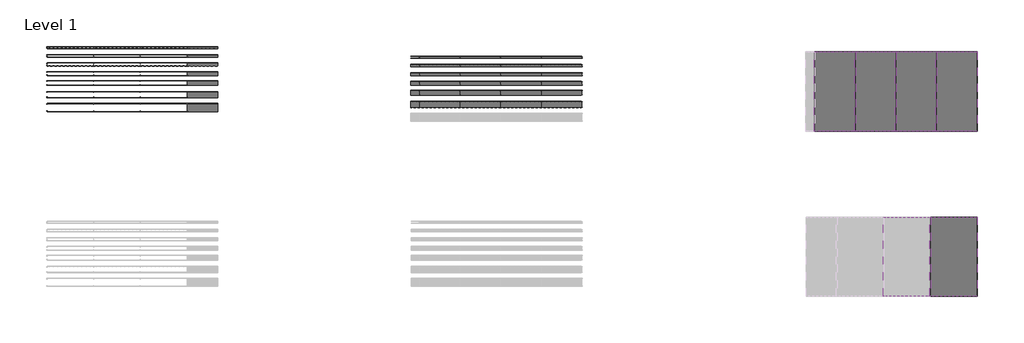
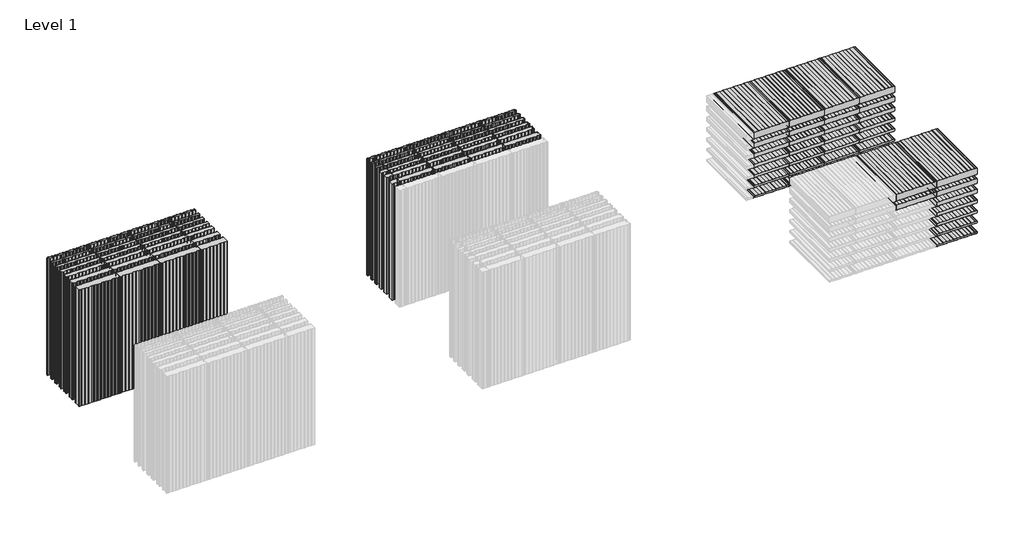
# One storey, part 4 of 4: 95 plates.
"""IFC4 building model written with IfcOpenShell, lengths in millimetres."""

from ifc_helpers import new_model, si_unit, origin, place, context, project, spatial, transform, mapped, element, save
from components import pm1_curtain_panel_standard_profile_64459d4c, pm1_curtain_panel_standard_profile_1bd4c047, pm1_curtain_panel_standard_profile_331eded3, pm1_curtain_panel_standard_profile_70a947a0, pm1_curtain_panel_standard_profile_f790478e, pm1_curtain_panel_standard_profile_9475321e, pm1_curtain_panel_standard_profile_5101608a, pm1_curtain_panel_standard_profile_95d5dc12, pm1_curtain_panel_standard_profile_808d0dd5, pm1_curtain_panel_standard_profile_bc3a73cf, pm1_curtain_panel_standard_profile_645c54cf, pm1_curtain_panel_standard_profile_fd7bc9c6, pm1_curtain_panel_standard_profile_a12e6484, pm1_curtain_panel_standard_profile_edf24548, pm1_curtain_panel_standard_profile_c46ebac7, pm1_curtain_panel_standard_profile_a53d14e9, pm1_curtain_panel_standard_profile_b681ec22, pm1_curtain_panel_standard_profile_9f690ffb, pm1_curtain_panel_standard_profile_ebc39398, pm1_curtain_panel_standard_profile_293336a9, pm1_curtain_panel_standard_profile_7c5191db, pm1_curtain_panel_micro_ribbed_profile_c0fbc9e0, pm1_curtain_panel_micro_ribbed_profile_24b0a13b, pm1_curtain_panel_micro_ribbed_profile_1f1996e2, pm1_curtain_panel_micro_ribbed_profile_37213962, pm1_curtain_panel_micro_ribbed_profile_82cb0394, pm1_curtain_panel_micro_ribbed_profile_46b46948, pm1_curtain_panel_micro_ribbed_profile_215b7ad8, pm1_curtain_panel_micro_ribbed_profile_cca0c929, pm1_curtain_panel_micro_ribbed_profile_490ffd24, pm1_curtain_panel_micro_ribbed_profile_86621088, pm1_curtain_panel_micro_ribbed_profile_9c3616a6, pm1_curtain_panel_micro_ribbed_profile_b6f5b8fb, pm1_curtain_panel_micro_ribbed_profile_3ec6e447, pm1_curtain_panel_micro_ribbed_profile_b6d19df9, pmh_curtain_panel_standard_d920e055, pmh_curtain_panel_standard_b3cdcdb4, pmh_curtain_panel_standard_897669c1, pmh_curtain_panel_standard_a9f73665, pmh_curtain_panel_standard_05a95652, pmh_curtain_panel_standard_f2a34cce, pmh_curtain_panel_standard_6cec185c, pmh_curtain_panel_standard_0c309260, pmh_curtain_panel_standard_df710713, pmh_curtain_panel_standard_caacb22a, pmh_curtain_panel_standard_ede8462a, pmh_curtain_panel_standard_cda4ae5a, pmh_curtain_panel_standard_ffdd8b7e, pmh_curtain_panel_standard_73a2f7ae, pmh_curtain_panel_standard_e8205904, pmh_curtain_panel_standard_b975286f, pmh_curtain_panel_standard_5e7b8410, pmh_curtain_panel_standard_5d81f6bc, pmh_curtain_panel_standard_d92086c8

model = new_model("IFC4")

# Units and contexts
model_context = context("Model", 3, world=origin())
ifc_project = project(units=[si_unit("LENGTHUNIT", "METRE", prefix="MILLI")], contexts=[model_context])

# Site, building, storey
site = spatial("IfcSite", under=ifc_project)
building = spatial("IfcBuilding", under=site)
storey = spatial("IfcBuildingStorey", under=building, Name="Level 1", Elevation=0.0)

# Plates
placement = place(None, origin())
pm1_curtain_panel_standard_profile_shape = pm1_curtain_panel_standard_profile_64459d4c(model_context)
pm1_curtain_panel_standard_profile_2_shape = pm1_curtain_panel_standard_profile_1bd4c047(model_context)
element("IfcPlate", 1, ObjectType="PM1_Curtain-Panel_ Standard-profile : ACH_PM1_Acoustic-Sectioning-Panel_60M", at=placement, inside=storey, context=model_context, shape_type="MappedRepresentation", body=[
    mapped(pm1_curtain_panel_standard_profile_shape, transform((-10729.4132588, 1220.6868121, 0.0), x_axis=(1.0, 0.0, 0.0), y_axis=(0.0, 1.0, 0.0), z_axis=(0.0, 0.0, 1.0))),
    mapped(pm1_curtain_panel_standard_profile_2_shape, transform((-10729.4132588, 1220.6868121, 0.0), x_axis=(1.0, 0.0, 0.0), y_axis=(0.0, 1.0, 0.0), z_axis=(0.0, 0.0, 1.0))),
])
element("IfcPlate", 2, ObjectType="PM1_Curtain-Panel_ Standard-profile : ACH_PM1_Acoustic-Sectioning-Panel_60M", at=placement, inside=storey, context=model_context, shape_type="MappedRepresentation", body=[
    mapped(pm1_curtain_panel_standard_profile_shape, transform((-9579.4132588, 1220.6868121, 0.0), x_axis=(1.0, 0.0, 0.0), y_axis=(0.0, 1.0, 0.0), z_axis=(0.0, 0.0, 1.0))),
    mapped(pm1_curtain_panel_standard_profile_2_shape, transform((-9579.4132588, 1220.6868121, 0.0), x_axis=(1.0, 0.0, 0.0), y_axis=(0.0, 1.0, 0.0), z_axis=(0.0, 0.0, 1.0))),
])
element("IfcPlate", 3, ObjectType="PM1_Curtain-Panel_ Standard-profile : ACH_PM1_Acoustic-Sectioning-Panel_60M", at=placement, inside=storey, context=model_context, shape_type="MappedRepresentation", body=[
    mapped(pm1_curtain_panel_standard_profile_shape, transform((-8429.4132588, 1220.6868121, 0.0), x_axis=(1.0, 0.0, 0.0), y_axis=(0.0, 1.0, 0.0), z_axis=(0.0, 0.0, 1.0))),
    mapped(pm1_curtain_panel_standard_profile_2_shape, transform((-8429.4132588, 1220.6868121, 0.0), x_axis=(1.0, 0.0, 0.0), y_axis=(0.0, 1.0, 0.0), z_axis=(0.0, 0.0, 1.0))),
])
pm1_curtain_panel_standard_profile_3_shape = pm1_curtain_panel_standard_profile_331eded3(model_context)
element("IfcPlate", 4, ObjectType="PM1_Curtain-Panel_ Standard-profile : ACH_PM1_Acoustic-Sectioning-Panel_60M", at=placement, inside=storey, context=model_context, shape_type="MappedRepresentation", body=[
    mapped(pm1_curtain_panel_standard_profile_3_shape, transform((-7479.4132588, 1220.6868121, 0.0), x_axis=(1.0, 0.0, 0.0), y_axis=(0.0, 1.0, 0.0), z_axis=(0.0, 0.0, 1.0))),
])
pm1_curtain_panel_standard_profile_4_shape = pm1_curtain_panel_standard_profile_70a947a0(model_context)
pm1_curtain_panel_standard_profile_5_shape = pm1_curtain_panel_standard_profile_f790478e(model_context)
element("IfcPlate", 5, ObjectType="PM1_Curtain-Panel_ Standard-profile : ACH_PM1_Acoustic-Sectioning-Panel_80M", at=placement, inside=storey, context=model_context, shape_type="MappedRepresentation", body=[
    mapped(pm1_curtain_panel_standard_profile_4_shape, transform((-10729.4132588, 1020.6868121, 0.0), x_axis=(1.0, 0.0, 0.0), y_axis=(0.0, 1.0, 0.0), z_axis=(0.0, 0.0, 1.0))),
    mapped(pm1_curtain_panel_standard_profile_5_shape, transform((-10729.4132588, 1020.6868121, 0.0), x_axis=(1.0, 0.0, 0.0), y_axis=(0.0, 1.0, 0.0), z_axis=(0.0, 0.0, 1.0))),
])
element("IfcPlate", 6, ObjectType="PM1_Curtain-Panel_ Standard-profile : ACH_PM1_Acoustic-Sectioning-Panel_80M", at=placement, inside=storey, context=model_context, shape_type="MappedRepresentation", body=[
    mapped(pm1_curtain_panel_standard_profile_4_shape, transform((-9579.4132588, 1020.6868121, 0.0), x_axis=(1.0, 0.0, 0.0), y_axis=(0.0, 1.0, 0.0), z_axis=(0.0, 0.0, 1.0))),
    mapped(pm1_curtain_panel_standard_profile_5_shape, transform((-9579.4132588, 1020.6868121, 0.0), x_axis=(1.0, 0.0, 0.0), y_axis=(0.0, 1.0, 0.0), z_axis=(0.0, 0.0, 1.0))),
])
element("IfcPlate", 7, ObjectType="PM1_Curtain-Panel_ Standard-profile : ACH_PM1_Acoustic-Sectioning-Panel_80M", at=placement, inside=storey, context=model_context, shape_type="MappedRepresentation", body=[
    mapped(pm1_curtain_panel_standard_profile_4_shape, transform((-8429.4132588, 1020.6868121, 0.0), x_axis=(1.0, 0.0, 0.0), y_axis=(0.0, 1.0, 0.0), z_axis=(0.0, 0.0, 1.0))),
    mapped(pm1_curtain_panel_standard_profile_5_shape, transform((-8429.4132588, 1020.6868121, 0.0), x_axis=(1.0, 0.0, 0.0), y_axis=(0.0, 1.0, 0.0), z_axis=(0.0, 0.0, 1.0))),
])
pm1_curtain_panel_standard_profile_6_shape = pm1_curtain_panel_standard_profile_9475321e(model_context)
element("IfcPlate", 8, ObjectType="PM1_Curtain-Panel_ Standard-profile : ACH_PM1_Acoustic-Sectioning-Panel_80M", at=placement, inside=storey, context=model_context, shape_type="MappedRepresentation", body=[
    mapped(pm1_curtain_panel_standard_profile_6_shape, transform((-7479.4132588, 1020.6868121, 0.0), x_axis=(1.0, 0.0, 0.0), y_axis=(0.0, 1.0, 0.0), z_axis=(0.0, 0.0, 1.0))),
])
pm1_curtain_panel_standard_profile_7_shape = pm1_curtain_panel_standard_profile_5101608a(model_context)
pm1_curtain_panel_standard_profile_8_shape = pm1_curtain_panel_standard_profile_95d5dc12(model_context)
element("IfcPlate", 9, ObjectType="PM1_Curtain-Panel_ Standard-profile : ACH_PM1_Acoustic-Sectioning-Panel_50M", at=placement, inside=storey, context=model_context, shape_type="MappedRepresentation", body=[
    mapped(pm1_curtain_panel_standard_profile_7_shape, transform((-10729.4132588, 1420.6868121, 0.0), x_axis=(1.0, 0.0, 0.0), y_axis=(0.0, 1.0, 0.0), z_axis=(0.0, 0.0, 1.0))),
    mapped(pm1_curtain_panel_standard_profile_8_shape, transform((-10729.4132588, 1420.6868121, 0.0), x_axis=(1.0, 0.0, 0.0), y_axis=(0.0, 1.0, 0.0), z_axis=(0.0, 0.0, 1.0))),
])
element("IfcPlate", 10, ObjectType="PM1_Curtain-Panel_ Standard-profile : ACH_PM1_Acoustic-Sectioning-Panel_50M", at=placement, inside=storey, context=model_context, shape_type="MappedRepresentation", body=[
    mapped(pm1_curtain_panel_standard_profile_7_shape, transform((-9579.4132588, 1420.6868121, 0.0), x_axis=(1.0, 0.0, 0.0), y_axis=(0.0, 1.0, 0.0), z_axis=(0.0, 0.0, 1.0))),
    mapped(pm1_curtain_panel_standard_profile_8_shape, transform((-9579.4132588, 1420.6868121, 0.0), x_axis=(1.0, 0.0, 0.0), y_axis=(0.0, 1.0, 0.0), z_axis=(0.0, 0.0, 1.0))),
])
element("IfcPlate", 11, ObjectType="PM1_Curtain-Panel_ Standard-profile : ACH_PM1_Acoustic-Sectioning-Panel_50M", at=placement, inside=storey, context=model_context, shape_type="MappedRepresentation", body=[
    mapped(pm1_curtain_panel_standard_profile_7_shape, transform((-8429.4132588, 1420.6868121, 0.0), x_axis=(1.0, 0.0, 0.0), y_axis=(0.0, 1.0, 0.0), z_axis=(0.0, 0.0, 1.0))),
    mapped(pm1_curtain_panel_standard_profile_8_shape, transform((-8429.4132588, 1420.6868121, 0.0), x_axis=(1.0, 0.0, 0.0), y_axis=(0.0, 1.0, 0.0), z_axis=(0.0, 0.0, 1.0))),
])
pm1_curtain_panel_standard_profile_9_shape = pm1_curtain_panel_standard_profile_808d0dd5(model_context)
element("IfcPlate", 12, ObjectType="PM1_Curtain-Panel_ Standard-profile : ACH_PM1_Acoustic-Sectioning-Panel_50M", at=placement, inside=storey, context=model_context, shape_type="MappedRepresentation", body=[
    mapped(pm1_curtain_panel_standard_profile_9_shape, transform((-7479.4012848, 1420.6868121, 0.0), x_axis=(1.0, 0.0, 0.0), y_axis=(0.0, 1.0, 0.0), z_axis=(0.0, 0.0, 1.0))),
])
pm1_curtain_panel_standard_profile_10_shape = pm1_curtain_panel_standard_profile_bc3a73cf(model_context)
pm1_curtain_panel_standard_profile_11_shape = pm1_curtain_panel_standard_profile_645c54cf(model_context)
element("IfcPlate", 13, ObjectType="PM1_Curtain-Panel_ Standard-profile : ACH_PM1_Acoustic-Sectioning-Panel_100M", at=placement, inside=storey, context=model_context, shape_type="MappedRepresentation", body=[
    mapped(pm1_curtain_panel_standard_profile_10_shape, transform((-10729.4132588, 804.8868121, 0.0), x_axis=(1.0, 0.0, 0.0), y_axis=(0.0, 1.0, 0.0), z_axis=(0.0, 0.0, 1.0))),
    mapped(pm1_curtain_panel_standard_profile_11_shape, transform((-10729.4132588, 804.8868121, 0.0), x_axis=(1.0, 0.0, 0.0), y_axis=(0.0, 1.0, 0.0), z_axis=(0.0, 0.0, 1.0))),
])
element("IfcPlate", 14, ObjectType="PM1_Curtain-Panel_ Standard-profile : ACH_PM1_Acoustic-Sectioning-Panel_100M", at=placement, inside=storey, context=model_context, shape_type="MappedRepresentation", body=[
    mapped(pm1_curtain_panel_standard_profile_10_shape, transform((-9579.4132588, 804.8868121, 0.0), x_axis=(1.0, 0.0, 0.0), y_axis=(0.0, 1.0, 0.0), z_axis=(0.0, 0.0, 1.0))),
    mapped(pm1_curtain_panel_standard_profile_11_shape, transform((-9579.4132588, 804.8868121, 0.0), x_axis=(1.0, 0.0, 0.0), y_axis=(0.0, 1.0, 0.0), z_axis=(0.0, 0.0, 1.0))),
])
element("IfcPlate", 15, ObjectType="PM1_Curtain-Panel_ Standard-profile : ACH_PM1_Acoustic-Sectioning-Panel_100M", at=placement, inside=storey, context=model_context, shape_type="MappedRepresentation", body=[
    mapped(pm1_curtain_panel_standard_profile_10_shape, transform((-8429.4132588, 804.8868121, 0.0), x_axis=(1.0, 0.0, 0.0), y_axis=(0.0, 1.0, 0.0), z_axis=(0.0, 0.0, 1.0))),
    mapped(pm1_curtain_panel_standard_profile_11_shape, transform((-8429.4132588, 804.8868121, 0.0), x_axis=(1.0, 0.0, 0.0), y_axis=(0.0, 1.0, 0.0), z_axis=(0.0, 0.0, 1.0))),
])
pm1_curtain_panel_standard_profile_12_shape = pm1_curtain_panel_standard_profile_fd7bc9c6(model_context)
element("IfcPlate", 16, ObjectType="PM1_Curtain-Panel_ Standard-profile : ACH_PM1_Acoustic-Sectioning-Panel_100M", at=placement, inside=storey, context=model_context, shape_type="MappedRepresentation", body=[
    mapped(pm1_curtain_panel_standard_profile_12_shape, transform((-7479.4132588, 804.8868121, 0.0), x_axis=(1.0, 0.0, 0.0), y_axis=(0.0, 1.0, 0.0), z_axis=(0.0, 0.0, 1.0))),
])
pm1_curtain_panel_standard_profile_13_shape = pm1_curtain_panel_standard_profile_a12e6484(model_context)
pm1_curtain_panel_standard_profile_14_shape = pm1_curtain_panel_standard_profile_edf24548(model_context)
element("IfcPlate", 17, ObjectType="PM1_Curtain-Panel_ Standard-profile : ACH_PM1_Acoustic-Sectioning-Panel_120M", at=placement, inside=storey, context=model_context, shape_type="MappedRepresentation", body=[
    mapped(pm1_curtain_panel_standard_profile_13_shape, transform((-10729.4132588, 584.8868121, 0.0), x_axis=(1.0, 0.0, 0.0), y_axis=(0.0, 1.0, 0.0), z_axis=(0.0, 0.0, 1.0))),
    mapped(pm1_curtain_panel_standard_profile_14_shape, transform((-10729.4132588, 584.8868121, 0.0), x_axis=(1.0, 0.0, 0.0), y_axis=(0.0, 1.0, 0.0), z_axis=(0.0, 0.0, 1.0))),
])
element("IfcPlate", 18, ObjectType="PM1_Curtain-Panel_ Standard-profile : ACH_PM1_Acoustic-Sectioning-Panel_120M", at=placement, inside=storey, context=model_context, shape_type="MappedRepresentation", body=[
    mapped(pm1_curtain_panel_standard_profile_13_shape, transform((-9579.4132588, 584.8868121, 0.0), x_axis=(1.0, 0.0, 0.0), y_axis=(0.0, 1.0, 0.0), z_axis=(0.0, 0.0, 1.0))),
    mapped(pm1_curtain_panel_standard_profile_14_shape, transform((-9579.4132588, 584.8868121, 0.0), x_axis=(1.0, 0.0, 0.0), y_axis=(0.0, 1.0, 0.0), z_axis=(0.0, 0.0, 1.0))),
])
element("IfcPlate", 19, ObjectType="PM1_Curtain-Panel_ Standard-profile : ACH_PM1_Acoustic-Sectioning-Panel_120M", at=placement, inside=storey, context=model_context, shape_type="MappedRepresentation", body=[
    mapped(pm1_curtain_panel_standard_profile_13_shape, transform((-8429.4132588, 584.8868121, 0.0), x_axis=(1.0, 0.0, 0.0), y_axis=(0.0, 1.0, 0.0), z_axis=(0.0, 0.0, 1.0))),
    mapped(pm1_curtain_panel_standard_profile_14_shape, transform((-8429.4132588, 584.8868121, 0.0), x_axis=(1.0, 0.0, 0.0), y_axis=(0.0, 1.0, 0.0), z_axis=(0.0, 0.0, 1.0))),
])
pm1_curtain_panel_standard_profile_15_shape = pm1_curtain_panel_standard_profile_c46ebac7(model_context)
element("IfcPlate", 20, ObjectType="PM1_Curtain-Panel_ Standard-profile : ACH_PM1_Acoustic-Sectioning-Panel_120M", at=placement, inside=storey, context=model_context, shape_type="MappedRepresentation", body=[
    mapped(pm1_curtain_panel_standard_profile_15_shape, transform((-7479.4132588, 584.8868121, 0.0), x_axis=(1.0, 0.0, 0.0), y_axis=(0.0, 1.0, 0.0), z_axis=(0.0, 0.0, 1.0))),
])
pm1_curtain_panel_standard_profile_16_shape = pm1_curtain_panel_standard_profile_a53d14e9(model_context)
pm1_curtain_panel_standard_profile_17_shape = pm1_curtain_panel_standard_profile_b681ec22(model_context)
element("IfcPlate", 21, ObjectType="PM1_Curtain-Panel_ Standard-profile : ACH_PM1_Acoustic-Sectioning-Panel_150M", at=placement, inside=storey, context=model_context, shape_type="MappedRepresentation", body=[
    mapped(pm1_curtain_panel_standard_profile_16_shape, transform((-10729.4132588, 309.8868121, 0.0), x_axis=(1.0, 0.0, 0.0), y_axis=(0.0, 1.0, 0.0), z_axis=(0.0, 0.0, 1.0))),
    mapped(pm1_curtain_panel_standard_profile_17_shape, transform((-10729.4132588, 309.8868121, 0.0), x_axis=(1.0, 0.0, 0.0), y_axis=(0.0, 1.0, 0.0), z_axis=(0.0, 0.0, 1.0))),
])
element("IfcPlate", 22, ObjectType="PM1_Curtain-Panel_ Standard-profile : ACH_PM1_Acoustic-Sectioning-Panel_150M", at=placement, inside=storey, context=model_context, shape_type="MappedRepresentation", body=[
    mapped(pm1_curtain_panel_standard_profile_16_shape, transform((-9579.4132588, 309.8868121, 0.0), x_axis=(1.0, 0.0, 0.0), y_axis=(0.0, 1.0, 0.0), z_axis=(0.0, 0.0, 1.0))),
    mapped(pm1_curtain_panel_standard_profile_17_shape, transform((-9579.4132588, 309.8868121, 0.0), x_axis=(1.0, 0.0, 0.0), y_axis=(0.0, 1.0, 0.0), z_axis=(0.0, 0.0, 1.0))),
])
element("IfcPlate", 23, ObjectType="PM1_Curtain-Panel_ Standard-profile : ACH_PM1_Acoustic-Sectioning-Panel_150M", at=placement, inside=storey, context=model_context, shape_type="MappedRepresentation", body=[
    mapped(pm1_curtain_panel_standard_profile_16_shape, transform((-8429.4132588, 309.8868121, 0.0), x_axis=(1.0, 0.0, 0.0), y_axis=(0.0, 1.0, 0.0), z_axis=(0.0, 0.0, 1.0))),
    mapped(pm1_curtain_panel_standard_profile_17_shape, transform((-8429.4132588, 309.8868121, 0.0), x_axis=(1.0, 0.0, 0.0), y_axis=(0.0, 1.0, 0.0), z_axis=(0.0, 0.0, 1.0))),
])
pm1_curtain_panel_standard_profile_18_shape = pm1_curtain_panel_standard_profile_9f690ffb(model_context)
element("IfcPlate", 24, ObjectType="PM1_Curtain-Panel_ Standard-profile : ACH_PM1_Acoustic-Sectioning-Panel_150M", at=placement, inside=storey, context=model_context, shape_type="MappedRepresentation", body=[
    mapped(pm1_curtain_panel_standard_profile_18_shape, transform((-7479.4132588, 309.8868121, 0.0), x_axis=(1.0, 0.0, 0.0), y_axis=(0.0, 1.0, 0.0), z_axis=(0.0, 0.0, 1.0))),
])
pm1_curtain_panel_standard_profile_19_shape = pm1_curtain_panel_standard_profile_ebc39398(model_context)
pm1_curtain_panel_standard_profile_20_shape = pm1_curtain_panel_standard_profile_293336a9(model_context)
element("IfcPlate", 25, ObjectType="PM1_Curtain-Panel_ Standard-profile : ACH_PM1_Acoustic-Sectioning-Panel_200M", at=placement, inside=storey, context=model_context, shape_type="MappedRepresentation", body=[
    mapped(pm1_curtain_panel_standard_profile_19_shape, transform((-10729.4132588, 19.8868121, 0.0), x_axis=(1.0, 0.0, 0.0), y_axis=(0.0, 1.0, 0.0), z_axis=(0.0, 0.0, 1.0))),
    mapped(pm1_curtain_panel_standard_profile_20_shape, transform((-10729.4132588, 19.8868121, 0.0), x_axis=(1.0, 0.0, 0.0), y_axis=(0.0, 1.0, 0.0), z_axis=(0.0, 0.0, 1.0))),
])
element("IfcPlate", 26, ObjectType="PM1_Curtain-Panel_ Standard-profile : ACH_PM1_Acoustic-Sectioning-Panel_200M", at=placement, inside=storey, context=model_context, shape_type="MappedRepresentation", body=[
    mapped(pm1_curtain_panel_standard_profile_19_shape, transform((-9579.4132588, 19.8868121, 0.0), x_axis=(1.0, 0.0, 0.0), y_axis=(0.0, 1.0, 0.0), z_axis=(0.0, 0.0, 1.0))),
    mapped(pm1_curtain_panel_standard_profile_20_shape, transform((-9579.4132588, 19.8868121, 0.0), x_axis=(1.0, 0.0, 0.0), y_axis=(0.0, 1.0, 0.0), z_axis=(0.0, 0.0, 1.0))),
])
element("IfcPlate", 27, ObjectType="PM1_Curtain-Panel_ Standard-profile : ACH_PM1_Acoustic-Sectioning-Panel_200M", at=placement, inside=storey, context=model_context, shape_type="MappedRepresentation", body=[
    mapped(pm1_curtain_panel_standard_profile_19_shape, transform((-8429.4132588, 19.8868121, 0.0), x_axis=(1.0, 0.0, 0.0), y_axis=(0.0, 1.0, 0.0), z_axis=(0.0, 0.0, 1.0))),
    mapped(pm1_curtain_panel_standard_profile_20_shape, transform((-8429.4132588, 19.8868121, 0.0), x_axis=(1.0, 0.0, 0.0), y_axis=(0.0, 1.0, 0.0), z_axis=(0.0, 0.0, 1.0))),
])
pm1_curtain_panel_standard_profile_21_shape = pm1_curtain_panel_standard_profile_7c5191db(model_context)
element("IfcPlate", 28, ObjectType="PM1_Curtain-Panel_ Standard-profile : ACH_PM1_Acoustic-Sectioning-Panel_200M", at=placement, inside=storey, context=model_context, shape_type="MappedRepresentation", body=[
    mapped(pm1_curtain_panel_standard_profile_21_shape, transform((-7479.4132588, 19.8868121, 0.0), x_axis=(1.0, 0.0, 0.0), y_axis=(0.0, 1.0, 0.0), z_axis=(0.0, 0.0, 1.0))),
])
pm1_curtain_panel_micro_ribbed_profile_shape = pm1_curtain_panel_micro_ribbed_profile_c0fbc9e0(model_context)
pm1_curtain_panel_micro_ribbed_profile_2_shape = pm1_curtain_panel_micro_ribbed_profile_24b0a13b(model_context)
element("IfcPlate", 29, ObjectType="PM1_Curtain-Panel_Micro-ribbed-profile : ACH_PM1_Acoustic-Sectioning-Panel_50M", at=placement, inside=storey, context=model_context, shape_type="MappedRepresentation", body=[
    mapped(pm1_curtain_panel_micro_ribbed_profile_shape, transform((11007.4664378, -4719.7144508, 0.0), x_axis=(-1.0, 0.0, 0.0), y_axis=(0.0, 0.0, 1.0), z_axis=(0.0, 1.0, 0.0))),
    mapped(pm1_curtain_panel_micro_ribbed_profile_2_shape, transform((11007.4664378, -4719.7144508, 0.0), x_axis=(-1.0, 0.0, 0.0), y_axis=(0.0, 0.0, 1.0), z_axis=(0.0, 1.0, 0.0))),
])
pm1_curtain_panel_micro_ribbed_profile_3_shape = pm1_curtain_panel_micro_ribbed_profile_1f1996e2(model_context)
pm1_curtain_panel_micro_ribbed_profile_4_shape = pm1_curtain_panel_micro_ribbed_profile_37213962(model_context)
element("IfcPlate", 30, ObjectType="PM1_Curtain-Panel_Micro-ribbed-profile : ACH_PM1_Acoustic-Sectioning-Panel_60M", at=placement, inside=storey, context=model_context, shape_type="MappedRepresentation", body=[
    mapped(pm1_curtain_panel_micro_ribbed_profile_3_shape, transform((11007.4664378, -4719.7144508, 320.0), x_axis=(-1.0, 0.0, 0.0), y_axis=(0.0, 0.0, 1.0), z_axis=(0.0, 1.0, 0.0))),
    mapped(pm1_curtain_panel_micro_ribbed_profile_4_shape, transform((11007.4664378, -4719.7144508, 320.0), x_axis=(-1.0, 0.0, 0.0), y_axis=(0.0, 0.0, 1.0), z_axis=(0.0, 1.0, 0.0))),
])
pm1_curtain_panel_micro_ribbed_profile_5_shape = pm1_curtain_panel_micro_ribbed_profile_82cb0394(model_context)
pm1_curtain_panel_micro_ribbed_profile_6_shape = pm1_curtain_panel_micro_ribbed_profile_46b46948(model_context)
element("IfcPlate", 31, ObjectType="PM1_Curtain-Panel_Micro-ribbed-profile : ACH_PM1_Acoustic-Sectioning-Panel_80M", at=placement, inside=storey, context=model_context, shape_type="MappedRepresentation", body=[
    mapped(pm1_curtain_panel_micro_ribbed_profile_5_shape, transform((11007.4664378, -4719.7144508, 640.0), x_axis=(-1.0, 0.0, 0.0), y_axis=(0.0, 0.0, 1.0), z_axis=(0.0, 1.0, 0.0))),
    mapped(pm1_curtain_panel_micro_ribbed_profile_6_shape, transform((11007.4664378, -4719.7144508, 640.0), x_axis=(-1.0, 0.0, 0.0), y_axis=(0.0, 0.0, 1.0), z_axis=(0.0, 1.0, 0.0))),
])
pm1_curtain_panel_micro_ribbed_profile_7_shape = pm1_curtain_panel_micro_ribbed_profile_215b7ad8(model_context)
pm1_curtain_panel_micro_ribbed_profile_8_shape = pm1_curtain_panel_micro_ribbed_profile_cca0c929(model_context)
element("IfcPlate", 32, ObjectType="PM1_Curtain-Panel_Micro-ribbed-profile : ACH_PM1_Acoustic-Sectioning-Panel_100M", at=placement, inside=storey, context=model_context, shape_type="MappedRepresentation", body=[
    mapped(pm1_curtain_panel_micro_ribbed_profile_7_shape, transform((11007.4664378, -4719.7144508, 960.0), x_axis=(-1.0, 0.0, 0.0), y_axis=(0.0, 0.0, 1.0), z_axis=(0.0, 1.0, 0.0))),
    mapped(pm1_curtain_panel_micro_ribbed_profile_8_shape, transform((11007.4664378, -4719.7144508, 960.0), x_axis=(-1.0, 0.0, 0.0), y_axis=(0.0, 0.0, 1.0), z_axis=(0.0, 1.0, 0.0))),
])
pm1_curtain_panel_micro_ribbed_profile_9_shape = pm1_curtain_panel_micro_ribbed_profile_490ffd24(model_context)
pm1_curtain_panel_micro_ribbed_profile_10_shape = pm1_curtain_panel_micro_ribbed_profile_86621088(model_context)
element("IfcPlate", 33, ObjectType="PM1_Curtain-Panel_Micro-ribbed-profile : ACH_PM1_Acoustic-Sectioning-Panel_120M", at=placement, inside=storey, context=model_context, shape_type="MappedRepresentation", body=[
    mapped(pm1_curtain_panel_micro_ribbed_profile_9_shape, transform((11007.4664378, -4719.7144508, 1280.0), x_axis=(-1.0, 0.0, 0.0), y_axis=(0.0, 0.0, 1.0), z_axis=(0.0, 1.0, 0.0))),
    mapped(pm1_curtain_panel_micro_ribbed_profile_10_shape, transform((11007.4664378, -4719.7144508, 1280.0), x_axis=(-1.0, 0.0, 0.0), y_axis=(0.0, 0.0, 1.0), z_axis=(0.0, 1.0, 0.0))),
])
pm1_curtain_panel_micro_ribbed_profile_11_shape = pm1_curtain_panel_micro_ribbed_profile_9c3616a6(model_context)
pm1_curtain_panel_micro_ribbed_profile_12_shape = pm1_curtain_panel_micro_ribbed_profile_b6f5b8fb(model_context)
element("IfcPlate", 34, ObjectType="PM1_Curtain-Panel_Micro-ribbed-profile : ACH_PM1_Acoustic-Sectioning-Panel_150M", at=placement, inside=storey, context=model_context, shape_type="MappedRepresentation", body=[
    mapped(pm1_curtain_panel_micro_ribbed_profile_11_shape, transform((11007.4664378, -4719.7144508, 1600.0), x_axis=(-1.0, 0.0, 0.0), y_axis=(0.0, 0.0, 1.0), z_axis=(0.0, 1.0, 0.0))),
    mapped(pm1_curtain_panel_micro_ribbed_profile_12_shape, transform((11007.4664378, -4719.7144508, 1600.0), x_axis=(-1.0, 0.0, 0.0), y_axis=(0.0, 0.0, 1.0), z_axis=(0.0, 1.0, 0.0))),
])
element("IfcPlate", 35, ObjectType="PM1_Curtain-Panel_Micro-ribbed-profile : ACH_PM1_Acoustic-Sectioning-Panel_150M", at=placement, inside=storey, context=model_context, shape_type="MappedRepresentation", body=[
    mapped(pm1_curtain_panel_micro_ribbed_profile_11_shape, transform((9857.4664378, -4719.7144508, 1600.0), x_axis=(-1.0, 0.0, 0.0), y_axis=(0.0, 0.0, 1.0), z_axis=(0.0, 1.0, 0.0))),
    mapped(pm1_curtain_panel_micro_ribbed_profile_12_shape, transform((9857.4664378, -4719.7144508, 1600.0), x_axis=(-1.0, 0.0, 0.0), y_axis=(0.0, 0.0, 1.0), z_axis=(0.0, 1.0, 0.0))),
])
pm1_curtain_panel_micro_ribbed_profile_13_shape = pm1_curtain_panel_micro_ribbed_profile_3ec6e447(model_context)
pm1_curtain_panel_micro_ribbed_profile_14_shape = pm1_curtain_panel_micro_ribbed_profile_b6d19df9(model_context)
element("IfcPlate", 36, ObjectType="PM1_Curtain-Panel_Micro-ribbed-profile : ACH_PM1_Acoustic-Sectioning-Panel_200M", at=placement, inside=storey, context=model_context, shape_type="MappedRepresentation", body=[
    mapped(pm1_curtain_panel_micro_ribbed_profile_13_shape, transform((11007.4664378, -4719.7144508, 1920.0), x_axis=(-1.0, 0.0, 0.0), y_axis=(0.0, 0.0, 1.0), z_axis=(0.0, 1.0, 0.0))),
    mapped(pm1_curtain_panel_micro_ribbed_profile_14_shape, transform((11007.4664378, -4719.7144508, 1920.0), x_axis=(-1.0, 0.0, 0.0), y_axis=(0.0, 0.0, 1.0), z_axis=(0.0, 1.0, 0.0))),
])
element("IfcPlate", 37, ObjectType="PM1_Curtain-Panel_Micro-ribbed-profile : ACH_PM1_Acoustic-Sectioning-Panel_200M", at=placement, inside=storey, context=model_context, shape_type="MappedRepresentation", body=[
    mapped(pm1_curtain_panel_micro_ribbed_profile_13_shape, transform((9857.4664378, -4719.7144508, 1920.0), x_axis=(-1.0, 0.0, 0.0), y_axis=(0.0, 0.0, 1.0), z_axis=(0.0, 1.0, 0.0))),
    mapped(pm1_curtain_panel_micro_ribbed_profile_14_shape, transform((9857.4664378, -4719.7144508, 1920.0), x_axis=(-1.0, 0.0, 0.0), y_axis=(0.0, 0.0, 1.0), z_axis=(0.0, 1.0, 0.0))),
])
pmh_curtain_panel_standard_shape = pmh_curtain_panel_standard_d920e055(model_context)
element("IfcPlate", 38, ObjectType="PMH_Curtain-Panel-Standard : ACH_PMH_Acoustic-Sectioning-Panel_60M", at=placement, inside=storey, context=model_context, shape_type="MappedRepresentation", body=[
    mapped(pmh_curtain_panel_standard_shape, transform((1353.9432954, 981.1826032, 0.0), x_axis=(-1.0, 0.0, 0.0), y_axis=(0.0, -1.0, 0.0), z_axis=(0.0, 0.0, 1.0))),
])
element("IfcPlate", 39, ObjectType="PMH_Curtain-Panel-Standard : ACH_PMH_Acoustic-Sectioning-Panel_60M", at=placement, inside=storey, context=model_context, shape_type="MappedRepresentation", body=[
    mapped(pmh_curtain_panel_standard_shape, transform((-646.0567046, 981.1826032, 0.0), x_axis=(-1.0, 0.0, 0.0), y_axis=(0.0, -1.0, 0.0), z_axis=(0.0, 0.0, 1.0))),
])
element("IfcPlate", 40, ObjectType="PMH_Curtain-Panel-Standard : ACH_PMH_Acoustic-Sectioning-Panel_60M", at=placement, inside=storey, context=model_context, shape_type="MappedRepresentation", body=[
    mapped(pmh_curtain_panel_standard_shape, transform((-1646.0567046, 981.1826032, 0.0), x_axis=(-1.0, 0.0, 0.0), y_axis=(0.0, -1.0, 0.0), z_axis=(0.0, 0.0, 1.0))),
])
element("IfcPlate", 41, ObjectType="PMH_Curtain-Panel-Standard : ACH_PMH_Acoustic-Sectioning-Panel_60M", at=placement, inside=storey, context=model_context, shape_type="MappedRepresentation", body=[
    mapped(pmh_curtain_panel_standard_shape, transform((353.9432954, 981.1826032, 0.0), x_axis=(-1.0, 0.0, 0.0), y_axis=(0.0, -1.0, 0.0), z_axis=(0.0, 0.0, 1.0))),
])
pmh_curtain_panel_standard_2_shape = pmh_curtain_panel_standard_b3cdcdb4(model_context)
element("IfcPlate", 42, ObjectType="PMH_Curtain-Panel-Standard : ACH_PMH_Acoustic-Sectioning-Panel_60M", at=placement, inside=storey, context=model_context, shape_type="MappedRepresentation", body=[
    mapped(pmh_curtain_panel_standard_2_shape, transform((-2246.0567046, 981.1826032, 0.0), x_axis=(-1.0, 0.0, 0.0), y_axis=(0.0, -1.0, 0.0), z_axis=(0.0, 0.0, 1.0))),
])
pmh_curtain_panel_standard_3_shape = pmh_curtain_panel_standard_897669c1(model_context)
element("IfcPlate", 43, ObjectType="PMH_Curtain-Panel-Standard : ACH_PMH_Acoustic-Sectioning-Panel_80M", at=placement, inside=storey, context=model_context, shape_type="MappedRepresentation", body=[
    mapped(pmh_curtain_panel_standard_3_shape, transform((1353.9432954, 781.1826032, 0.0), x_axis=(-1.0, 0.0, 0.0), y_axis=(0.0, -1.0, 0.0), z_axis=(0.0, 0.0, 1.0))),
])
element("IfcPlate", 44, ObjectType="PMH_Curtain-Panel-Standard : ACH_PMH_Acoustic-Sectioning-Panel_80M", at=placement, inside=storey, context=model_context, shape_type="MappedRepresentation", body=[
    mapped(pmh_curtain_panel_standard_3_shape, transform((-646.0567046, 781.1826032, 0.0), x_axis=(-1.0, 0.0, 0.0), y_axis=(0.0, -1.0, 0.0), z_axis=(0.0, 0.0, 1.0))),
])
element("IfcPlate", 45, ObjectType="PMH_Curtain-Panel-Standard : ACH_PMH_Acoustic-Sectioning-Panel_80M", at=placement, inside=storey, context=model_context, shape_type="MappedRepresentation", body=[
    mapped(pmh_curtain_panel_standard_3_shape, transform((-1646.0567046, 781.1826032, 0.0), x_axis=(-1.0, 0.0, 0.0), y_axis=(0.0, -1.0, 0.0), z_axis=(0.0, 0.0, 1.0))),
])
element("IfcPlate", 46, ObjectType="PMH_Curtain-Panel-Standard : ACH_PMH_Acoustic-Sectioning-Panel_80M", at=placement, inside=storey, context=model_context, shape_type="MappedRepresentation", body=[
    mapped(pmh_curtain_panel_standard_3_shape, transform((353.9432954, 781.1826032, 0.0), x_axis=(-1.0, 0.0, 0.0), y_axis=(0.0, -1.0, 0.0), z_axis=(0.0, 0.0, 1.0))),
])
pmh_curtain_panel_standard_4_shape = pmh_curtain_panel_standard_a9f73665(model_context)
element("IfcPlate", 47, ObjectType="PMH_Curtain-Panel-Standard : ACH_PMH_Acoustic-Sectioning-Panel_80M", at=placement, inside=storey, context=model_context, shape_type="MappedRepresentation", body=[
    mapped(pmh_curtain_panel_standard_4_shape, transform((-2246.0567046, 781.1826032, 0.0), x_axis=(-1.0, 0.0, 0.0), y_axis=(0.0, -1.0, 0.0), z_axis=(0.0, 0.0, 1.0))),
])
pmh_curtain_panel_standard_5_shape = pmh_curtain_panel_standard_05a95652(model_context)
element("IfcPlate", 48, ObjectType="PMH_Curtain-Panel-Standard : ACH_PMH_Acoustic-Sectioning-Panel_50M", at=placement, inside=storey, context=model_context, shape_type="MappedRepresentation", body=[
    mapped(pmh_curtain_panel_standard_5_shape, transform((1353.9432954, 1181.1826032, 0.0), x_axis=(-1.0, 0.0, 0.0), y_axis=(0.0, -1.0, 0.0), z_axis=(0.0, 0.0, 1.0))),
])
element("IfcPlate", 49, ObjectType="PMH_Curtain-Panel-Standard : ACH_PMH_Acoustic-Sectioning-Panel_50M", at=placement, inside=storey, context=model_context, shape_type="MappedRepresentation", body=[
    mapped(pmh_curtain_panel_standard_5_shape, transform((-646.0567046, 1181.1826032, 0.0), x_axis=(-1.0, 0.0, 0.0), y_axis=(0.0, -1.0, 0.0), z_axis=(0.0, 0.0, 1.0))),
])
element("IfcPlate", 50, ObjectType="PMH_Curtain-Panel-Standard : ACH_PMH_Acoustic-Sectioning-Panel_50M", at=placement, inside=storey, context=model_context, shape_type="MappedRepresentation", body=[
    mapped(pmh_curtain_panel_standard_5_shape, transform((-1646.0567046, 1181.1826032, 0.0), x_axis=(-1.0, 0.0, 0.0), y_axis=(0.0, -1.0, 0.0), z_axis=(0.0, 0.0, 1.0))),
])
element("IfcPlate", 51, ObjectType="PMH_Curtain-Panel-Standard : ACH_PMH_Acoustic-Sectioning-Panel_50M", at=placement, inside=storey, context=model_context, shape_type="MappedRepresentation", body=[
    mapped(pmh_curtain_panel_standard_5_shape, transform((353.9432954, 1181.1826032, 0.0), x_axis=(-1.0, 0.0, 0.0), y_axis=(0.0, -1.0, 0.0), z_axis=(0.0, 0.0, 1.0))),
])
pmh_curtain_panel_standard_6_shape = pmh_curtain_panel_standard_f2a34cce(model_context)
element("IfcPlate", 52, ObjectType="PMH_Curtain-Panel-Standard : ACH_PMH_Acoustic-Sectioning-Panel_50M", at=placement, inside=storey, context=model_context, shape_type="MappedRepresentation", body=[
    mapped(pmh_curtain_panel_standard_6_shape, transform((-2246.0686785, 1181.1826032, 0.0), x_axis=(-1.0, 0.0, 0.0), y_axis=(0.0, -1.0, 0.0), z_axis=(0.0, 0.0, 1.0))),
])
pmh_curtain_panel_standard_7_shape = pmh_curtain_panel_standard_6cec185c(model_context)
element("IfcPlate", 53, ObjectType="PMH_Curtain-Panel-Standard : ACH_PMH_Acoustic-Sectioning-Panel_100M", at=placement, inside=storey, context=model_context, shape_type="MappedRepresentation", body=[
    mapped(pmh_curtain_panel_standard_7_shape, transform((1353.9432954, 565.3826032, 0.0), x_axis=(-1.0, 0.0, 0.0), y_axis=(0.0, -1.0, 0.0), z_axis=(0.0, 0.0, 1.0))),
])
element("IfcPlate", 54, ObjectType="PMH_Curtain-Panel-Standard : ACH_PMH_Acoustic-Sectioning-Panel_100M", at=placement, inside=storey, context=model_context, shape_type="MappedRepresentation", body=[
    mapped(pmh_curtain_panel_standard_7_shape, transform((-646.0567046, 565.3826032, 0.0), x_axis=(-1.0, 0.0, 0.0), y_axis=(0.0, -1.0, 0.0), z_axis=(0.0, 0.0, 1.0))),
])
element("IfcPlate", 55, ObjectType="PMH_Curtain-Panel-Standard : ACH_PMH_Acoustic-Sectioning-Panel_100M", at=placement, inside=storey, context=model_context, shape_type="MappedRepresentation", body=[
    mapped(pmh_curtain_panel_standard_7_shape, transform((-1646.0567046, 565.3826032, 0.0), x_axis=(-1.0, 0.0, 0.0), y_axis=(0.0, -1.0, 0.0), z_axis=(0.0, 0.0, 1.0))),
])
element("IfcPlate", 56, ObjectType="PMH_Curtain-Panel-Standard : ACH_PMH_Acoustic-Sectioning-Panel_100M", at=placement, inside=storey, context=model_context, shape_type="MappedRepresentation", body=[
    mapped(pmh_curtain_panel_standard_7_shape, transform((353.9432954, 565.3826032, 0.0), x_axis=(-1.0, 0.0, 0.0), y_axis=(0.0, -1.0, 0.0), z_axis=(0.0, 0.0, 1.0))),
])
pmh_curtain_panel_standard_8_shape = pmh_curtain_panel_standard_0c309260(model_context)
element("IfcPlate", 57, ObjectType="PMH_Curtain-Panel-Standard : ACH_PMH_Acoustic-Sectioning-Panel_100M", at=placement, inside=storey, context=model_context, shape_type="MappedRepresentation", body=[
    mapped(pmh_curtain_panel_standard_8_shape, transform((-2246.0567046, 565.3826032, 0.0), x_axis=(-1.0, 0.0, 0.0), y_axis=(0.0, -1.0, 0.0), z_axis=(0.0, 0.0, 1.0))),
])
pmh_curtain_panel_standard_9_shape = pmh_curtain_panel_standard_df710713(model_context)
element("IfcPlate", 58, ObjectType="PMH_Curtain-Panel-Standard : ACH_PMH_Acoustic-Sectioning-Panel_50M", at=placement, inside=storey, context=model_context, shape_type="MappedRepresentation", body=[
    mapped(pmh_curtain_panel_standard_9_shape, transform((11082.4664378, -659.2186597, 0.0), x_axis=(-1.0, 0.0, 0.0), y_axis=(0.0, 0.0, 1.0), z_axis=(0.0, 1.0, 0.0))),
])
element("IfcPlate", 59, ObjectType="PMH_Curtain-Panel-Standard : ACH_PMH_Acoustic-Sectioning-Panel_50M", at=placement, inside=storey, context=model_context, shape_type="MappedRepresentation", body=[
    mapped(pmh_curtain_panel_standard_9_shape, transform((10082.4664378, -659.2186597, 0.0), x_axis=(-1.0, 0.0, 0.0), y_axis=(0.0, 0.0, 1.0), z_axis=(0.0, 1.0, 0.0))),
])
element("IfcPlate", 60, ObjectType="PMH_Curtain-Panel-Standard : ACH_PMH_Acoustic-Sectioning-Panel_50M", at=placement, inside=storey, context=model_context, shape_type="MappedRepresentation", body=[
    mapped(pmh_curtain_panel_standard_9_shape, transform((9082.4664378, -659.2186597, 0.0), x_axis=(-1.0, 0.0, 0.0), y_axis=(0.0, 0.0, 1.0), z_axis=(0.0, 1.0, 0.0))),
])
element("IfcPlate", 61, ObjectType="PMH_Curtain-Panel-Standard : ACH_PMH_Acoustic-Sectioning-Panel_50M", at=placement, inside=storey, context=model_context, shape_type="MappedRepresentation", body=[
    mapped(pmh_curtain_panel_standard_9_shape, transform((8082.4664378, -659.2186597, 0.0), x_axis=(-1.0, 0.0, 0.0), y_axis=(0.0, 0.0, 1.0), z_axis=(0.0, 1.0, 0.0))),
])
pmh_curtain_panel_standard_10_shape = pmh_curtain_panel_standard_caacb22a(model_context)
element("IfcPlate", 62, ObjectType="PMH_Curtain-Panel-Standard : ACH_PMH_Acoustic-Sectioning-Panel_120M", at=placement, inside=storey, context=model_context, shape_type="MappedRepresentation", body=[
    mapped(pmh_curtain_panel_standard_10_shape, transform((1353.9432954, 345.3826032, 0.0), x_axis=(-1.0, 0.0, 0.0), y_axis=(0.0, -1.0, 0.0), z_axis=(0.0, 0.0, 1.0))),
])
element("IfcPlate", 63, ObjectType="PMH_Curtain-Panel-Standard : ACH_PMH_Acoustic-Sectioning-Panel_120M", at=placement, inside=storey, context=model_context, shape_type="MappedRepresentation", body=[
    mapped(pmh_curtain_panel_standard_10_shape, transform((-646.0567046, 345.3826032, 0.0), x_axis=(-1.0, 0.0, 0.0), y_axis=(0.0, -1.0, 0.0), z_axis=(0.0, 0.0, 1.0))),
])
element("IfcPlate", 64, ObjectType="PMH_Curtain-Panel-Standard : ACH_PMH_Acoustic-Sectioning-Panel_120M", at=placement, inside=storey, context=model_context, shape_type="MappedRepresentation", body=[
    mapped(pmh_curtain_panel_standard_10_shape, transform((-1646.0567046, 345.3826032, 0.0), x_axis=(-1.0, 0.0, 0.0), y_axis=(0.0, -1.0, 0.0), z_axis=(0.0, 0.0, 1.0))),
])
element("IfcPlate", 65, ObjectType="PMH_Curtain-Panel-Standard : ACH_PMH_Acoustic-Sectioning-Panel_120M", at=placement, inside=storey, context=model_context, shape_type="MappedRepresentation", body=[
    mapped(pmh_curtain_panel_standard_10_shape, transform((353.9432954, 345.3826032, 0.0), x_axis=(-1.0, 0.0, 0.0), y_axis=(0.0, -1.0, 0.0), z_axis=(0.0, 0.0, 1.0))),
])
pmh_curtain_panel_standard_11_shape = pmh_curtain_panel_standard_ede8462a(model_context)
element("IfcPlate", 66, ObjectType="PMH_Curtain-Panel-Standard : ACH_PMH_Acoustic-Sectioning-Panel_120M", at=placement, inside=storey, context=model_context, shape_type="MappedRepresentation", body=[
    mapped(pmh_curtain_panel_standard_11_shape, transform((-2246.0567046, 345.3826032, 0.0), x_axis=(-1.0, 0.0, 0.0), y_axis=(0.0, -1.0, 0.0), z_axis=(0.0, 0.0, 1.0))),
])
pmh_curtain_panel_standard_12_shape = pmh_curtain_panel_standard_cda4ae5a(model_context)
element("IfcPlate", 67, ObjectType="PMH_Curtain-Panel-Standard : ACH_PMH_Acoustic-Sectioning-Panel_150M", at=placement, inside=storey, context=model_context, shape_type="MappedRepresentation", body=[
    mapped(pmh_curtain_panel_standard_12_shape, transform((1353.9432954, 70.3826032, 0.0), x_axis=(-1.0, 0.0, 0.0), y_axis=(0.0, -1.0, 0.0), z_axis=(0.0, 0.0, 1.0))),
])
element("IfcPlate", 68, ObjectType="PMH_Curtain-Panel-Standard : ACH_PMH_Acoustic-Sectioning-Panel_150M", at=placement, inside=storey, context=model_context, shape_type="MappedRepresentation", body=[
    mapped(pmh_curtain_panel_standard_12_shape, transform((-646.0567046, 70.3826032, 0.0), x_axis=(-1.0, 0.0, 0.0), y_axis=(0.0, -1.0, 0.0), z_axis=(0.0, 0.0, 1.0))),
])
element("IfcPlate", 69, ObjectType="PMH_Curtain-Panel-Standard : ACH_PMH_Acoustic-Sectioning-Panel_150M", at=placement, inside=storey, context=model_context, shape_type="MappedRepresentation", body=[
    mapped(pmh_curtain_panel_standard_12_shape, transform((-1646.0567046, 70.3826032, 0.0), x_axis=(-1.0, 0.0, 0.0), y_axis=(0.0, -1.0, 0.0), z_axis=(0.0, 0.0, 1.0))),
])
element("IfcPlate", 70, ObjectType="PMH_Curtain-Panel-Standard : ACH_PMH_Acoustic-Sectioning-Panel_150M", at=placement, inside=storey, context=model_context, shape_type="MappedRepresentation", body=[
    mapped(pmh_curtain_panel_standard_12_shape, transform((353.9432954, 70.3826032, 0.0), x_axis=(-1.0, 0.0, 0.0), y_axis=(0.0, -1.0, 0.0), z_axis=(0.0, 0.0, 1.0))),
])
pmh_curtain_panel_standard_13_shape = pmh_curtain_panel_standard_ffdd8b7e(model_context)
element("IfcPlate", 71, ObjectType="PMH_Curtain-Panel-Standard : ACH_PMH_Acoustic-Sectioning-Panel_150M", at=placement, inside=storey, context=model_context, shape_type="MappedRepresentation", body=[
    mapped(pmh_curtain_panel_standard_13_shape, transform((-2246.0567046, 70.3826032, 0.0), x_axis=(-1.0, 0.0, 0.0), y_axis=(0.0, -1.0, 0.0), z_axis=(0.0, 0.0, 1.0))),
])
pmh_curtain_panel_standard_14_shape = pmh_curtain_panel_standard_73a2f7ae(model_context)
element("IfcPlate", 72, ObjectType="PMH_Curtain-Panel-Standard : ACH_PMH_Acoustic-Sectioning-Panel_60M", at=placement, inside=storey, context=model_context, shape_type="MappedRepresentation", body=[
    mapped(pmh_curtain_panel_standard_14_shape, transform((11082.4664378, -659.2186597, 320.0), x_axis=(-1.0, 0.0, 0.0), y_axis=(0.0, 0.0, 1.0), z_axis=(0.0, 1.0, 0.0))),
])
element("IfcPlate", 73, ObjectType="PMH_Curtain-Panel-Standard : ACH_PMH_Acoustic-Sectioning-Panel_60M", at=placement, inside=storey, context=model_context, shape_type="MappedRepresentation", body=[
    mapped(pmh_curtain_panel_standard_14_shape, transform((10082.4664378, -659.2186597, 320.0), x_axis=(-1.0, 0.0, 0.0), y_axis=(0.0, 0.0, 1.0), z_axis=(0.0, 1.0, 0.0))),
])
element("IfcPlate", 74, ObjectType="PMH_Curtain-Panel-Standard : ACH_PMH_Acoustic-Sectioning-Panel_60M", at=placement, inside=storey, context=model_context, shape_type="MappedRepresentation", body=[
    mapped(pmh_curtain_panel_standard_14_shape, transform((9082.4664378, -659.2186597, 320.0), x_axis=(-1.0, 0.0, 0.0), y_axis=(0.0, 0.0, 1.0), z_axis=(0.0, 1.0, 0.0))),
])
element("IfcPlate", 75, ObjectType="PMH_Curtain-Panel-Standard : ACH_PMH_Acoustic-Sectioning-Panel_60M", at=placement, inside=storey, context=model_context, shape_type="MappedRepresentation", body=[
    mapped(pmh_curtain_panel_standard_14_shape, transform((8082.4664378, -659.2186597, 320.0), x_axis=(-1.0, 0.0, 0.0), y_axis=(0.0, 0.0, 1.0), z_axis=(0.0, 1.0, 0.0))),
])
pmh_curtain_panel_standard_15_shape = pmh_curtain_panel_standard_e8205904(model_context)
element("IfcPlate", 76, ObjectType="PMH_Curtain-Panel-Standard : ACH_PMH_Acoustic-Sectioning-Panel_80M", at=placement, inside=storey, context=model_context, shape_type="MappedRepresentation", body=[
    mapped(pmh_curtain_panel_standard_15_shape, transform((11082.4664378, -659.2186597, 640.0), x_axis=(-1.0, 0.0, 0.0), y_axis=(0.0, 0.0, 1.0), z_axis=(0.0, 1.0, 0.0))),
])
element("IfcPlate", 77, ObjectType="PMH_Curtain-Panel-Standard : ACH_PMH_Acoustic-Sectioning-Panel_80M", at=placement, inside=storey, context=model_context, shape_type="MappedRepresentation", body=[
    mapped(pmh_curtain_panel_standard_15_shape, transform((10082.4664378, -659.2186597, 640.0), x_axis=(-1.0, 0.0, 0.0), y_axis=(0.0, 0.0, 1.0), z_axis=(0.0, 1.0, 0.0))),
])
element("IfcPlate", 78, ObjectType="PMH_Curtain-Panel-Standard : ACH_PMH_Acoustic-Sectioning-Panel_80M", at=placement, inside=storey, context=model_context, shape_type="MappedRepresentation", body=[
    mapped(pmh_curtain_panel_standard_15_shape, transform((9082.4664378, -659.2186597, 640.0), x_axis=(-1.0, 0.0, 0.0), y_axis=(0.0, 0.0, 1.0), z_axis=(0.0, 1.0, 0.0))),
])
element("IfcPlate", 79, ObjectType="PMH_Curtain-Panel-Standard : ACH_PMH_Acoustic-Sectioning-Panel_80M", at=placement, inside=storey, context=model_context, shape_type="MappedRepresentation", body=[
    mapped(pmh_curtain_panel_standard_15_shape, transform((8082.4664378, -659.2186597, 640.0), x_axis=(-1.0, 0.0, 0.0), y_axis=(0.0, 0.0, 1.0), z_axis=(0.0, 1.0, 0.0))),
])
pmh_curtain_panel_standard_16_shape = pmh_curtain_panel_standard_b975286f(model_context)
element("IfcPlate", 80, ObjectType="PMH_Curtain-Panel-Standard : ACH_PMH_Acoustic-Sectioning-Panel_100M", at=placement, inside=storey, context=model_context, shape_type="MappedRepresentation", body=[
    mapped(pmh_curtain_panel_standard_16_shape, transform((11082.4664378, -659.2186597, 960.0), x_axis=(-1.0, 0.0, 0.0), y_axis=(0.0, 0.0, 1.0), z_axis=(0.0, 1.0, 0.0))),
])
element("IfcPlate", 81, ObjectType="PMH_Curtain-Panel-Standard : ACH_PMH_Acoustic-Sectioning-Panel_100M", at=placement, inside=storey, context=model_context, shape_type="MappedRepresentation", body=[
    mapped(pmh_curtain_panel_standard_16_shape, transform((10082.4664378, -659.2186597, 960.0), x_axis=(-1.0, 0.0, 0.0), y_axis=(0.0, 0.0, 1.0), z_axis=(0.0, 1.0, 0.0))),
])
element("IfcPlate", 82, ObjectType="PMH_Curtain-Panel-Standard : ACH_PMH_Acoustic-Sectioning-Panel_100M", at=placement, inside=storey, context=model_context, shape_type="MappedRepresentation", body=[
    mapped(pmh_curtain_panel_standard_16_shape, transform((9082.4664378, -659.2186597, 960.0), x_axis=(-1.0, 0.0, 0.0), y_axis=(0.0, 0.0, 1.0), z_axis=(0.0, 1.0, 0.0))),
])
element("IfcPlate", 83, ObjectType="PMH_Curtain-Panel-Standard : ACH_PMH_Acoustic-Sectioning-Panel_100M", at=placement, inside=storey, context=model_context, shape_type="MappedRepresentation", body=[
    mapped(pmh_curtain_panel_standard_16_shape, transform((8082.4664378, -659.2186597, 960.0), x_axis=(-1.0, 0.0, 0.0), y_axis=(0.0, 0.0, 1.0), z_axis=(0.0, 1.0, 0.0))),
])
pmh_curtain_panel_standard_17_shape = pmh_curtain_panel_standard_5e7b8410(model_context)
element("IfcPlate", 84, ObjectType="PMH_Curtain-Panel-Standard : ACH_PMH_Acoustic-Sectioning-Panel_120M", at=placement, inside=storey, context=model_context, shape_type="MappedRepresentation", body=[
    mapped(pmh_curtain_panel_standard_17_shape, transform((11082.4664378, -659.2186597, 1280.0), x_axis=(-1.0, 0.0, 0.0), y_axis=(0.0, 0.0, 1.0), z_axis=(0.0, 1.0, 0.0))),
])
element("IfcPlate", 85, ObjectType="PMH_Curtain-Panel-Standard : ACH_PMH_Acoustic-Sectioning-Panel_120M", at=placement, inside=storey, context=model_context, shape_type="MappedRepresentation", body=[
    mapped(pmh_curtain_panel_standard_17_shape, transform((10082.4664378, -659.2186597, 1280.0), x_axis=(-1.0, 0.0, 0.0), y_axis=(0.0, 0.0, 1.0), z_axis=(0.0, 1.0, 0.0))),
])
element("IfcPlate", 86, ObjectType="PMH_Curtain-Panel-Standard : ACH_PMH_Acoustic-Sectioning-Panel_120M", at=placement, inside=storey, context=model_context, shape_type="MappedRepresentation", body=[
    mapped(pmh_curtain_panel_standard_17_shape, transform((9082.4664378, -659.2186597, 1280.0), x_axis=(-1.0, 0.0, 0.0), y_axis=(0.0, 0.0, 1.0), z_axis=(0.0, 1.0, 0.0))),
])
element("IfcPlate", 87, ObjectType="PMH_Curtain-Panel-Standard : ACH_PMH_Acoustic-Sectioning-Panel_120M", at=placement, inside=storey, context=model_context, shape_type="MappedRepresentation", body=[
    mapped(pmh_curtain_panel_standard_17_shape, transform((8082.4664378, -659.2186597, 1280.0), x_axis=(-1.0, 0.0, 0.0), y_axis=(0.0, 0.0, 1.0), z_axis=(0.0, 1.0, 0.0))),
])
pmh_curtain_panel_standard_18_shape = pmh_curtain_panel_standard_5d81f6bc(model_context)
element("IfcPlate", 88, ObjectType="PMH_Curtain-Panel-Standard : ACH_PMH_Acoustic-Sectioning-Panel_150M", at=placement, inside=storey, context=model_context, shape_type="MappedRepresentation", body=[
    mapped(pmh_curtain_panel_standard_18_shape, transform((11082.4664378, -659.2186597, 1600.0), x_axis=(-1.0, 0.0, 0.0), y_axis=(0.0, 0.0, 1.0), z_axis=(0.0, 1.0, 0.0))),
])
element("IfcPlate", 89, ObjectType="PMH_Curtain-Panel-Standard : ACH_PMH_Acoustic-Sectioning-Panel_150M", at=placement, inside=storey, context=model_context, shape_type="MappedRepresentation", body=[
    mapped(pmh_curtain_panel_standard_18_shape, transform((10082.4664378, -659.2186597, 1600.0), x_axis=(-1.0, 0.0, 0.0), y_axis=(0.0, 0.0, 1.0), z_axis=(0.0, 1.0, 0.0))),
])
element("IfcPlate", 90, ObjectType="PMH_Curtain-Panel-Standard : ACH_PMH_Acoustic-Sectioning-Panel_150M", at=placement, inside=storey, context=model_context, shape_type="MappedRepresentation", body=[
    mapped(pmh_curtain_panel_standard_18_shape, transform((9082.4664378, -659.2186597, 1600.0), x_axis=(-1.0, 0.0, 0.0), y_axis=(0.0, 0.0, 1.0), z_axis=(0.0, 1.0, 0.0))),
])
element("IfcPlate", 91, ObjectType="PMH_Curtain-Panel-Standard : ACH_PMH_Acoustic-Sectioning-Panel_150M", at=placement, inside=storey, context=model_context, shape_type="MappedRepresentation", body=[
    mapped(pmh_curtain_panel_standard_18_shape, transform((8082.4664378, -659.2186597, 1600.0), x_axis=(-1.0, 0.0, 0.0), y_axis=(0.0, 0.0, 1.0), z_axis=(0.0, 1.0, 0.0))),
])
pmh_curtain_panel_standard_19_shape = pmh_curtain_panel_standard_d92086c8(model_context)
element("IfcPlate", 92, ObjectType="PMH_Curtain-Panel-Standard : ACH_PMH_Acoustic-Sectioning-Panel_200M", at=placement, inside=storey, context=model_context, shape_type="MappedRepresentation", body=[
    mapped(pmh_curtain_panel_standard_19_shape, transform((11082.4664378, -659.2186597, 1920.0), x_axis=(-1.0, 0.0, 0.0), y_axis=(0.0, 0.0, 1.0), z_axis=(0.0, 1.0, 0.0))),
])
element("IfcPlate", 93, ObjectType="PMH_Curtain-Panel-Standard : ACH_PMH_Acoustic-Sectioning-Panel_200M", at=placement, inside=storey, context=model_context, shape_type="MappedRepresentation", body=[
    mapped(pmh_curtain_panel_standard_19_shape, transform((10082.4664378, -659.2186597, 1920.0), x_axis=(-1.0, 0.0, 0.0), y_axis=(0.0, 0.0, 1.0), z_axis=(0.0, 1.0, 0.0))),
])
element("IfcPlate", 94, ObjectType="PMH_Curtain-Panel-Standard : ACH_PMH_Acoustic-Sectioning-Panel_200M", at=placement, inside=storey, context=model_context, shape_type="MappedRepresentation", body=[
    mapped(pmh_curtain_panel_standard_19_shape, transform((9082.4664378, -659.2186597, 1920.0), x_axis=(-1.0, 0.0, 0.0), y_axis=(0.0, 0.0, 1.0), z_axis=(0.0, 1.0, 0.0))),
])
element("IfcPlate", 95, ObjectType="PMH_Curtain-Panel-Standard : ACH_PMH_Acoustic-Sectioning-Panel_200M", at=placement, inside=storey, context=model_context, shape_type="MappedRepresentation", body=[
    mapped(pmh_curtain_panel_standard_19_shape, transform((8082.4664378, -659.2186597, 1920.0), x_axis=(-1.0, 0.0, 0.0), y_axis=(0.0, 0.0, 1.0), z_axis=(0.0, 1.0, 0.0))),
])

save(model, "model.ifc")
